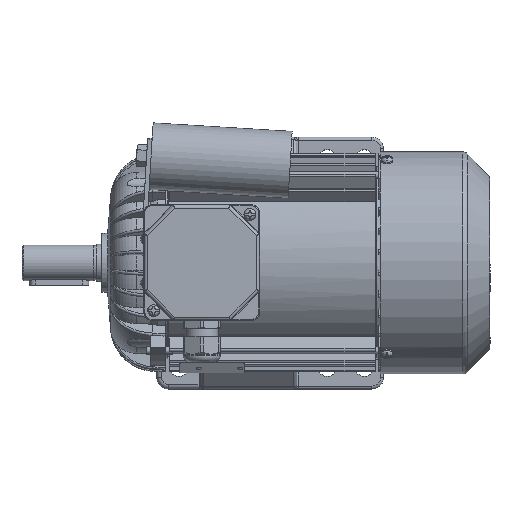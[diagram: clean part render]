
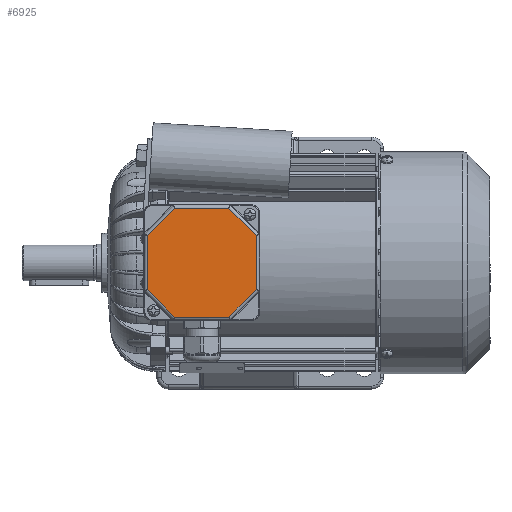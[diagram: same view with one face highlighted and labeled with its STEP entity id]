
A CAD part, top view. The second image highlights one B-rep face of the part: STEP entity #6925.
In plain terms, the highlighted planar face has unit normal (0, 0, 1).
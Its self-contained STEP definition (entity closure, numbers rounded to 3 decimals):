
#6925 = ADVANCED_FACE( '', ( #15139 ), #15140, .T. );
#15139 = FACE_OUTER_BOUND( '', #41041, .T. );
#15140 = PLANE( '', #41042 );
#41041 = EDGE_LOOP( '', ( #79481, #79482, #79483, #79484, #79485, #79486, #79487, #79488 ) );
#41042 = AXIS2_PLACEMENT_3D( '', #79489, #79490, #79491 );
#79481 = ORIENTED_EDGE( '', *, *, #97453, .T. );
#79482 = ORIENTED_EDGE( '', *, *, #100319, .T. );
#79483 = ORIENTED_EDGE( '', *, *, #103567, .T. );
#79484 = ORIENTED_EDGE( '', *, *, #99710, .T. );
#79485 = ORIENTED_EDGE( '', *, *, #103568, .T. );
#79486 = ORIENTED_EDGE( '', *, *, #103569, .T. );
#79487 = ORIENTED_EDGE( '', *, *, #103570, .T. );
#79488 = ORIENTED_EDGE( '', *, *, #103571, .T. );
#79489 = CARTESIAN_POINT( '', ( -39., 39., 12. ) );
#79490 = DIRECTION( '', ( 0., 0., 1. ) );
#79491 = DIRECTION( '', ( 1., 0., 0. ) );
#97453 = EDGE_CURVE( '', #111330, #111328, #111331, .F. );
#99710 = EDGE_CURVE( '', #115190, #115191, #115192, .T. );
#100319 = EDGE_CURVE( '', #111328, #116192, #116193, .T. );
#103567 = EDGE_CURVE( '', #116192, #115190, #121224, .F. );
#103568 = EDGE_CURVE( '', #115191, #120194, #121225, .F. );
#103569 = EDGE_CURVE( '', #120194, #121226, #121227, .T. );
#103570 = EDGE_CURVE( '', #121226, #119861, #121228, .F. );
#103571 = EDGE_CURVE( '', #119861, #111330, #121229, .T. );
#111328 = VERTEX_POINT( '', #130687 );
#111330 = VERTEX_POINT( '', #130689 );
#111331 = LINE( '', #130690, #130691 );
#115190 = VERTEX_POINT( '', #141239 );
#115191 = VERTEX_POINT( '', #141240 );
#115192 = LINE( '', #141241, #141242 );
#116192 = VERTEX_POINT( '', #144588 );
#116193 = LINE( '', #144589, #144590 );
#119861 = VERTEX_POINT( '', #154032 );
#120194 = VERTEX_POINT( '', #154776 );
#121224 = LINE( '', #157517, #157518 );
#121225 = LINE( '', #157519, #157520 );
#121226 = VERTEX_POINT( '', #157521 );
#121227 = LINE( '', #157522, #157523 );
#121228 = LINE( '', #157524, #157525 );
#121229 = LINE( '', #157526, #157527 );
#130687 = CARTESIAN_POINT( '', ( 36.825, 18.255, 12. ) );
#130689 = CARTESIAN_POINT( '', ( 36.825, -18.255, 12. ) );
#130690 = CARTESIAN_POINT( '', ( 36.825, 19.069, 12. ) );
#130691 = VECTOR( '', #175975, 1000. );
#141239 = CARTESIAN_POINT( '', ( -18.255, 36.825, 12. ) );
#141240 = CARTESIAN_POINT( '', ( -36.825, 18.255, 12. ) );
#141241 = CARTESIAN_POINT( '', ( -37.401, 17.679, 12. ) );
#141242 = VECTOR( '', #178597, 1000. );
#144588 = CARTESIAN_POINT( '', ( 18.255, 36.825, 12. ) );
#144589 = CARTESIAN_POINT( '', ( 17.679, 37.401, 12. ) );
#144590 = VECTOR( '', #179218, 1000. );
#154032 = CARTESIAN_POINT( '', ( 18.255, -36.825, 12. ) );
#154776 = CARTESIAN_POINT( '', ( -36.825, -18.255, 12. ) );
#157517 = CARTESIAN_POINT( '', ( -19.069, 36.825, 12. ) );
#157518 = VECTOR( '', #182893, 1000. );
#157519 = CARTESIAN_POINT( '', ( -36.825, -19.069, 12. ) );
#157520 = VECTOR( '', #182894, 1000. );
#157521 = CARTESIAN_POINT( '', ( -18.255, -36.825, 12. ) );
#157522 = CARTESIAN_POINT( '', ( -17.679, -37.401, 12. ) );
#157523 = VECTOR( '', #182895, 1000. );
#157524 = CARTESIAN_POINT( '', ( 19.069, -36.825, 12. ) );
#157525 = VECTOR( '', #182896, 1000. );
#157526 = CARTESIAN_POINT( '', ( 37.401, -17.679, 12. ) );
#157527 = VECTOR( '', #182897, 1000. );
#175975 = DIRECTION( '', ( 0., -1., 0. ) );
#178597 = DIRECTION( '', ( -0.707, -0.707, 0. ) );
#179218 = DIRECTION( '', ( -0.707, 0.707, 0. ) );
#182893 = DIRECTION( '', ( 1., 0., 0. ) );
#182894 = DIRECTION( '', ( 0., 1., 0. ) );
#182895 = DIRECTION( '', ( 0.707, -0.707, 0. ) );
#182896 = DIRECTION( '', ( -1., 0., 0. ) );
#182897 = DIRECTION( '', ( 0.707, 0.707, 0. ) );
